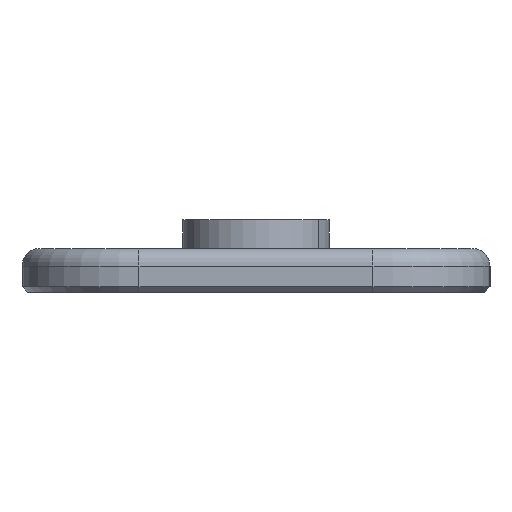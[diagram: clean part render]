
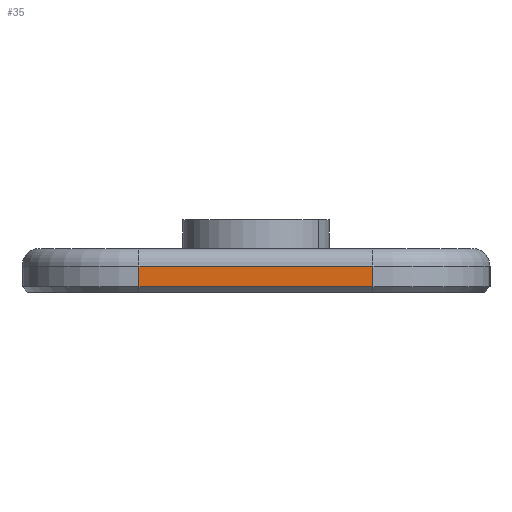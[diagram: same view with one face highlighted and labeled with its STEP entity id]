
A CAD part, left-side view. The second image highlights one B-rep face of the part: STEP entity #35.
In plain terms, the highlighted planar face has unit normal (-1, 0, 0).
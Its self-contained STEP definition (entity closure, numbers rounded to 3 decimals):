
#35 = ADVANCED_FACE('',(#36),#50,.T.);
#36 = FACE_BOUND('',#37,.T.);
#37 = EDGE_LOOP('',(#38,#73,#101,#129));
#38 = ORIENTED_EDGE('',*,*,#39,.T.);
#39 = EDGE_CURVE('',#40,#42,#44,.T.);
#40 = VERTEX_POINT('',#41);
#41 = CARTESIAN_POINT('',(-174.,-4.,0.2));
#42 = VERTEX_POINT('',#43);
#43 = CARTESIAN_POINT('',(-174.,-4.,0.9));
#44 = SURFACE_CURVE('',#45,(#49,#61),.PCURVE_S1.);
#45 = LINE('',#46,#47);
#46 = CARTESIAN_POINT('',(-174.,-4.,0.));
#47 = VECTOR('',#48,1.);
#48 = DIRECTION('',(0.,0.,1.));
#49 = PCURVE('',#50,#55);
#50 = PLANE('',#51);
#51 = AXIS2_PLACEMENT_3D('',#52,#53,#54);
#52 = CARTESIAN_POINT('',(-174.,-4.,0.));
#53 = DIRECTION('',(-1.,0.,0.));
#54 = DIRECTION('',(0.,1.,0.));
#55 = DEFINITIONAL_REPRESENTATION('',(#56),#60);
#56 = LINE('',#57,#58);
#57 = CARTESIAN_POINT('',(0.,0.));
#58 = VECTOR('',#59,1.);
#59 = DIRECTION('',(0.,-1.));
#60 = ( GEOMETRIC_REPRESENTATION_CONTEXT(2) 
PARAMETRIC_REPRESENTATION_CONTEXT() REPRESENTATION_CONTEXT('2D SPACE',''
  ) );
#61 = PCURVE('',#62,#67);
#62 = CYLINDRICAL_SURFACE('',#63,4.);
#63 = AXIS2_PLACEMENT_3D('',#64,#65,#66);
#64 = CARTESIAN_POINT('',(-170.,-4.,0.));
#65 = DIRECTION('',(-0.,-0.,-1.));
#66 = DIRECTION('',(1.,0.,0.));
#67 = DEFINITIONAL_REPRESENTATION('',(#68),#72);
#68 = LINE('',#69,#70);
#69 = CARTESIAN_POINT('',(-3.142,0.));
#70 = VECTOR('',#71,1.);
#71 = DIRECTION('',(-0.,-1.));
#72 = ( GEOMETRIC_REPRESENTATION_CONTEXT(2) 
PARAMETRIC_REPRESENTATION_CONTEXT() REPRESENTATION_CONTEXT('2D SPACE',''
  ) );
#73 = ORIENTED_EDGE('',*,*,#74,.T.);
#74 = EDGE_CURVE('',#42,#75,#77,.T.);
#75 = VERTEX_POINT('',#76);
#76 = CARTESIAN_POINT('',(-174.,4.,0.9));
#77 = SURFACE_CURVE('',#78,(#82,#89),.PCURVE_S1.);
#78 = LINE('',#79,#80);
#79 = CARTESIAN_POINT('',(-174.,-4.,0.9));
#80 = VECTOR('',#81,1.);
#81 = DIRECTION('',(0.,1.,0.));
#82 = PCURVE('',#50,#83);
#83 = DEFINITIONAL_REPRESENTATION('',(#84),#88);
#84 = LINE('',#85,#86);
#85 = CARTESIAN_POINT('',(0.,-0.9));
#86 = VECTOR('',#87,1.);
#87 = DIRECTION('',(1.,0.));
#88 = ( GEOMETRIC_REPRESENTATION_CONTEXT(2) 
PARAMETRIC_REPRESENTATION_CONTEXT() REPRESENTATION_CONTEXT('2D SPACE',''
  ) );
#89 = PCURVE('',#90,#95);
#90 = CYLINDRICAL_SURFACE('',#91,0.6);
#91 = AXIS2_PLACEMENT_3D('',#92,#93,#94);
#92 = CARTESIAN_POINT('',(-173.4,-4.,0.9));
#93 = DIRECTION('',(0.,1.,0.));
#94 = DIRECTION('',(-1.,0.,0.));
#95 = DEFINITIONAL_REPRESENTATION('',(#96),#100);
#96 = LINE('',#97,#98);
#97 = CARTESIAN_POINT('',(0.,0.));
#98 = VECTOR('',#99,1.);
#99 = DIRECTION('',(0.,1.));
#100 = ( GEOMETRIC_REPRESENTATION_CONTEXT(2) 
PARAMETRIC_REPRESENTATION_CONTEXT() REPRESENTATION_CONTEXT('2D SPACE',''
  ) );
#101 = ORIENTED_EDGE('',*,*,#102,.F.);
#102 = EDGE_CURVE('',#103,#75,#105,.T.);
#103 = VERTEX_POINT('',#104);
#104 = CARTESIAN_POINT('',(-174.,4.,0.2));
#105 = SURFACE_CURVE('',#106,(#110,#117),.PCURVE_S1.);
#106 = LINE('',#107,#108);
#107 = CARTESIAN_POINT('',(-174.,4.,0.));
#108 = VECTOR('',#109,1.);
#109 = DIRECTION('',(0.,0.,1.));
#110 = PCURVE('',#50,#111);
#111 = DEFINITIONAL_REPRESENTATION('',(#112),#116);
#112 = LINE('',#113,#114);
#113 = CARTESIAN_POINT('',(8.,0.));
#114 = VECTOR('',#115,1.);
#115 = DIRECTION('',(0.,-1.));
#116 = ( GEOMETRIC_REPRESENTATION_CONTEXT(2) 
PARAMETRIC_REPRESENTATION_CONTEXT() REPRESENTATION_CONTEXT('2D SPACE',''
  ) );
#117 = PCURVE('',#118,#123);
#118 = CYLINDRICAL_SURFACE('',#119,4.);
#119 = AXIS2_PLACEMENT_3D('',#120,#121,#122);
#120 = CARTESIAN_POINT('',(-170.,4.,0.));
#121 = DIRECTION('',(-0.,-0.,-1.));
#122 = DIRECTION('',(1.,0.,0.));
#123 = DEFINITIONAL_REPRESENTATION('',(#124),#128);
#124 = LINE('',#125,#126);
#125 = CARTESIAN_POINT('',(-3.142,0.));
#126 = VECTOR('',#127,1.);
#127 = DIRECTION('',(-0.,-1.));
#128 = ( GEOMETRIC_REPRESENTATION_CONTEXT(2) 
PARAMETRIC_REPRESENTATION_CONTEXT() REPRESENTATION_CONTEXT('2D SPACE',''
  ) );
#129 = ORIENTED_EDGE('',*,*,#130,.F.);
#130 = EDGE_CURVE('',#40,#103,#131,.T.);
#131 = SURFACE_CURVE('',#132,(#136,#143),.PCURVE_S1.);
#132 = LINE('',#133,#134);
#133 = CARTESIAN_POINT('',(-174.,-4.,0.2));
#134 = VECTOR('',#135,1.);
#135 = DIRECTION('',(0.,1.,0.));
#136 = PCURVE('',#50,#137);
#137 = DEFINITIONAL_REPRESENTATION('',(#138),#142);
#138 = LINE('',#139,#140);
#139 = CARTESIAN_POINT('',(0.,-0.2));
#140 = VECTOR('',#141,1.);
#141 = DIRECTION('',(1.,0.));
#142 = ( GEOMETRIC_REPRESENTATION_CONTEXT(2) 
PARAMETRIC_REPRESENTATION_CONTEXT() REPRESENTATION_CONTEXT('2D SPACE',''
  ) );
#143 = PCURVE('',#144,#149);
#144 = PLANE('',#145);
#145 = AXIS2_PLACEMENT_3D('',#146,#147,#148);
#146 = CARTESIAN_POINT('',(-173.9,-4.,0.1));
#147 = DIRECTION('',(0.707,0.,0.707)
  );
#148 = DIRECTION('',(0.,-1.,0.));
#149 = DEFINITIONAL_REPRESENTATION('',(#150),#154);
#150 = LINE('',#151,#152);
#151 = CARTESIAN_POINT('',(-0.,-0.141));
#152 = VECTOR('',#153,1.);
#153 = DIRECTION('',(-1.,0.));
#154 = ( GEOMETRIC_REPRESENTATION_CONTEXT(2) 
PARAMETRIC_REPRESENTATION_CONTEXT() REPRESENTATION_CONTEXT('2D SPACE',''
  ) );
